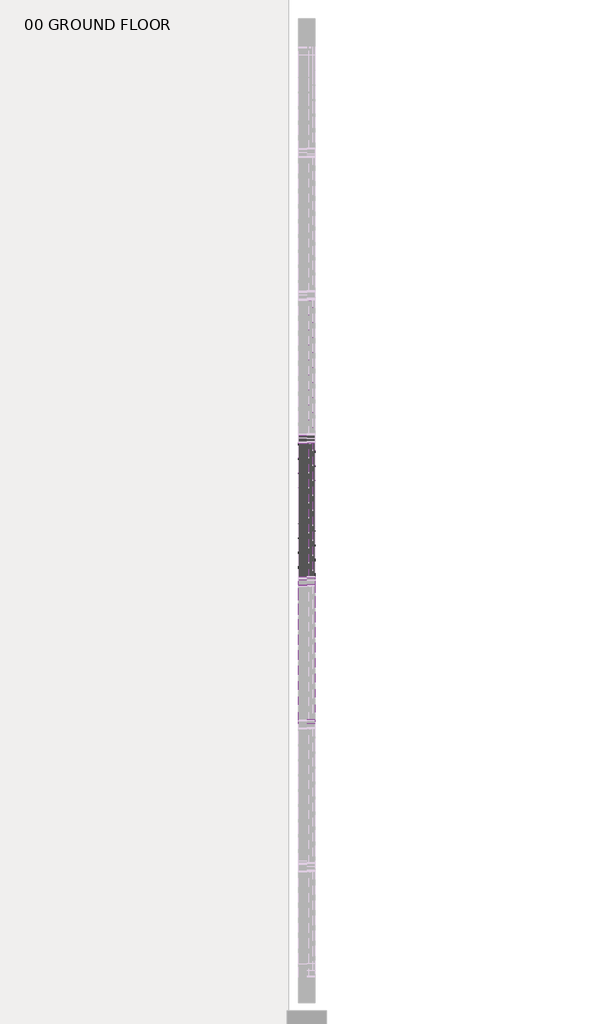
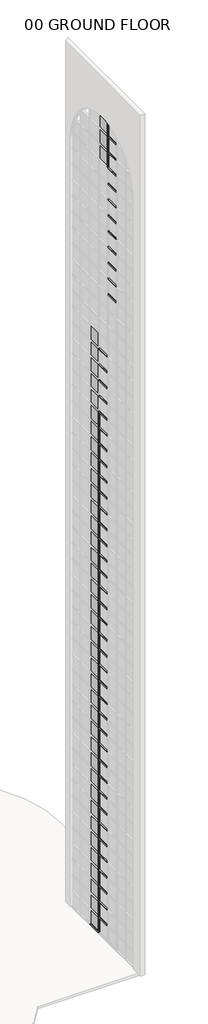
# One storey, part 19 of 33: 86 members, 41 plates.
"""IFC4 building model written with IfcOpenShell, lengths in millimetres."""

from ifc_helpers import new_model, si_unit, origin, place, context, project, spatial, transform, mapped, element, save
from components import member_14f97ceb, member_d1490fb0, member_2b49869a, member_3adf77c9, member_5ea67813, system_panel_glazed_f009bf0e, system_panel_glazed_0919b3b7, system_panel_glazed_d420fa7b

model = new_model("IFC4")

# Units and contexts
model_context = context("Model", 3, world=origin())
ifc_project = project(units=[si_unit("LENGTHUNIT", "METRE", prefix="MILLI")], contexts=[model_context])

# Site, building, storey
site = spatial("IfcSite", under=ifc_project)
building = spatial("IfcBuilding", under=site)
storey = spatial("IfcBuildingStorey", under=building, Name="00 GROUND FLOOR", Elevation=0.0)

# Members
placement = place(None, origin())
member_shape = member_14f97ceb(model_context)
element("IfcMember", 1, ObjectType="Rectangular Mullion : 2.5\" x 5\" rectangular", at=placement, inside=storey, context=model_context, shape_type="MappedRepresentation", body=[
    mapped(member_shape, transform((44184.4050515, 5325.3821428, 0.0), x_axis=(0.0, 0.0, -1.0), y_axis=(1.0, 0.0, 0.0), z_axis=(0.0, -1.0, 0.0))),
])
member_2_shape = member_d1490fb0(model_context)
element("IfcMember", 2, ObjectType="Rectangular Mullion : 2.5\" x 5\" rectangular", at=placement, inside=storey, context=model_context, shape_type="MappedRepresentation", body=[
    mapped(member_2_shape, transform((44184.4050515, 5261.8821428, 1219.2), x_axis=(0.0, 0.0, 1.0), y_axis=(1.0, 0.0, 0.0), z_axis=(0.0, 1.0, 0.0))),
])
element("IfcMember", 3, ObjectType="Rectangular Mullion : 2.5\" x 5\" rectangular", at=placement, inside=storey, context=model_context, shape_type="MappedRepresentation", body=[
    mapped(member_2_shape, transform((44184.4050515, 5261.8821428, 2438.4), x_axis=(0.0, 0.0, 1.0), y_axis=(1.0, 0.0, 0.0), z_axis=(0.0, 1.0, 0.0))),
])
element("IfcMember", 4, ObjectType="Rectangular Mullion : 2.5\" x 5\" rectangular", at=placement, inside=storey, context=model_context, shape_type="MappedRepresentation", body=[
    mapped(member_2_shape, transform((44184.4050515, 5261.8821428, 3657.6), x_axis=(0.0, 0.0, 1.0), y_axis=(1.0, 0.0, 0.0), z_axis=(0.0, 1.0, 0.0))),
])
element("IfcMember", 5, ObjectType="Rectangular Mullion : 2.5\" x 5\" rectangular", at=placement, inside=storey, context=model_context, shape_type="MappedRepresentation", body=[
    mapped(member_2_shape, transform((44184.4050515, 5261.8821428, 4876.8), x_axis=(0.0, 0.0, 1.0), y_axis=(1.0, 0.0, 0.0), z_axis=(0.0, 1.0, 0.0))),
])
element("IfcMember", 6, ObjectType="Rectangular Mullion : 2.5\" x 5\" rectangular", at=placement, inside=storey, context=model_context, shape_type="MappedRepresentation", body=[
    mapped(member_2_shape, transform((44184.4050515, 5261.8821428, 6096.0), x_axis=(0.0, 0.0, 1.0), y_axis=(1.0, 0.0, 0.0), z_axis=(0.0, 1.0, 0.0))),
])
element("IfcMember", 7, ObjectType="Rectangular Mullion : 2.5\" x 5\" rectangular", at=placement, inside=storey, context=model_context, shape_type="MappedRepresentation", body=[
    mapped(member_2_shape, transform((44184.4050515, 5261.8821428, 7315.2), x_axis=(0.0, 0.0, 1.0), y_axis=(1.0, 0.0, 0.0), z_axis=(0.0, 1.0, 0.0))),
])
element("IfcMember", 8, ObjectType="Rectangular Mullion : 2.5\" x 5\" rectangular", at=placement, inside=storey, context=model_context, shape_type="MappedRepresentation", body=[
    mapped(member_2_shape, transform((44184.4050515, 5261.8821428, 8534.4), x_axis=(0.0, 0.0, 1.0), y_axis=(1.0, 0.0, 0.0), z_axis=(0.0, 1.0, 0.0))),
])
element("IfcMember", 9, ObjectType="Rectangular Mullion : 2.5\" x 5\" rectangular", at=placement, inside=storey, context=model_context, shape_type="MappedRepresentation", body=[
    mapped(member_2_shape, transform((44184.4050515, 5261.8821428, 9753.6), x_axis=(0.0, 0.0, 1.0), y_axis=(1.0, 0.0, 0.0), z_axis=(0.0, 1.0, 0.0))),
])
element("IfcMember", 10, ObjectType="Rectangular Mullion : 2.5\" x 5\" rectangular", at=placement, inside=storey, context=model_context, shape_type="MappedRepresentation", body=[
    mapped(member_2_shape, transform((44184.4050515, 5261.8821428, 10972.8), x_axis=(0.0, 0.0, 1.0), y_axis=(1.0, 0.0, 0.0), z_axis=(0.0, 1.0, 0.0))),
])
element("IfcMember", 11, ObjectType="Rectangular Mullion : 2.5\" x 5\" rectangular", at=placement, inside=storey, context=model_context, shape_type="MappedRepresentation", body=[
    mapped(member_2_shape, transform((44184.4050515, 5261.8821428, 12192.0), x_axis=(0.0, 0.0, 1.0), y_axis=(1.0, 0.0, 0.0), z_axis=(0.0, 1.0, 0.0))),
])
element("IfcMember", 12, ObjectType="Rectangular Mullion : 2.5\" x 5\" rectangular", at=placement, inside=storey, context=model_context, shape_type="MappedRepresentation", body=[
    mapped(member_2_shape, transform((44184.4050515, 5261.8821428, 13411.2), x_axis=(0.0, 0.0, 1.0), y_axis=(1.0, 0.0, 0.0), z_axis=(0.0, 1.0, 0.0))),
])
element("IfcMember", 13, ObjectType="Rectangular Mullion : 2.5\" x 5\" rectangular", at=placement, inside=storey, context=model_context, shape_type="MappedRepresentation", body=[
    mapped(member_2_shape, transform((44184.4050515, 5261.8821428, 14630.4), x_axis=(0.0, 0.0, 1.0), y_axis=(1.0, 0.0, 0.0), z_axis=(0.0, 1.0, 0.0))),
])
element("IfcMember", 14, ObjectType="Rectangular Mullion : 2.5\" x 5\" rectangular", at=placement, inside=storey, context=model_context, shape_type="MappedRepresentation", body=[
    mapped(member_2_shape, transform((44184.4050515, 5261.8821428, 15849.6), x_axis=(0.0, 0.0, 1.0), y_axis=(1.0, 0.0, 0.0), z_axis=(0.0, 1.0, 0.0))),
])
element("IfcMember", 15, ObjectType="Rectangular Mullion : 2.5\" x 5\" rectangular", at=placement, inside=storey, context=model_context, shape_type="MappedRepresentation", body=[
    mapped(member_2_shape, transform((44184.4050515, 5261.8821428, 17068.8), x_axis=(0.0, 0.0, 1.0), y_axis=(1.0, 0.0, 0.0), z_axis=(0.0, 1.0, 0.0))),
])
element("IfcMember", 16, ObjectType="Rectangular Mullion : 2.5\" x 5\" rectangular", at=placement, inside=storey, context=model_context, shape_type="MappedRepresentation", body=[
    mapped(member_2_shape, transform((44184.4050515, 5261.8821428, 18288.0), x_axis=(0.0, 0.0, 1.0), y_axis=(1.0, 0.0, 0.0), z_axis=(0.0, 1.0, 0.0))),
])
element("IfcMember", 17, ObjectType="Rectangular Mullion : 2.5\" x 5\" rectangular", at=placement, inside=storey, context=model_context, shape_type="MappedRepresentation", body=[
    mapped(member_2_shape, transform((44184.4050515, 5261.8821428, 19507.2), x_axis=(0.0, 0.0, 1.0), y_axis=(1.0, 0.0, 0.0), z_axis=(0.0, 1.0, 0.0))),
])
element("IfcMember", 18, ObjectType="Rectangular Mullion : 2.5\" x 5\" rectangular", at=placement, inside=storey, context=model_context, shape_type="MappedRepresentation", body=[
    mapped(member_2_shape, transform((44184.4050515, 5261.8821428, 20726.4), x_axis=(0.0, 0.0, 1.0), y_axis=(1.0, 0.0, 0.0), z_axis=(0.0, 1.0, 0.0))),
])
element("IfcMember", 19, ObjectType="Rectangular Mullion : 2.5\" x 5\" rectangular", at=placement, inside=storey, context=model_context, shape_type="MappedRepresentation", body=[
    mapped(member_2_shape, transform((44184.4050515, 5261.8821428, 21945.6), x_axis=(0.0, 0.0, 1.0), y_axis=(1.0, 0.0, 0.0), z_axis=(0.0, 1.0, 0.0))),
])
element("IfcMember", 20, ObjectType="Rectangular Mullion : 2.5\" x 5\" rectangular", at=placement, inside=storey, context=model_context, shape_type="MappedRepresentation", body=[
    mapped(member_2_shape, transform((44184.4050515, 5261.8821428, 23164.8), x_axis=(0.0, 0.0, 1.0), y_axis=(1.0, 0.0, 0.0), z_axis=(0.0, 1.0, 0.0))),
])
element("IfcMember", 21, ObjectType="Rectangular Mullion : 2.5\" x 5\" rectangular", at=placement, inside=storey, context=model_context, shape_type="MappedRepresentation", body=[
    mapped(member_2_shape, transform((44184.4050515, 5261.8821428, 24384.0), x_axis=(0.0, 0.0, 1.0), y_axis=(1.0, 0.0, 0.0), z_axis=(0.0, 1.0, 0.0))),
])
element("IfcMember", 22, ObjectType="Rectangular Mullion : 2.5\" x 5\" rectangular", at=placement, inside=storey, context=model_context, shape_type="MappedRepresentation", body=[
    mapped(member_2_shape, transform((44184.4050515, 5261.8821428, 25603.2), x_axis=(0.0, 0.0, 1.0), y_axis=(1.0, 0.0, 0.0), z_axis=(0.0, 1.0, 0.0))),
])
element("IfcMember", 23, ObjectType="Rectangular Mullion : 2.5\" x 5\" rectangular", at=placement, inside=storey, context=model_context, shape_type="MappedRepresentation", body=[
    mapped(member_2_shape, transform((44184.4050515, 5261.8821428, 26822.4), x_axis=(0.0, 0.0, 1.0), y_axis=(1.0, 0.0, 0.0), z_axis=(0.0, 1.0, 0.0))),
])
element("IfcMember", 24, ObjectType="Rectangular Mullion : 2.5\" x 5\" rectangular", at=placement, inside=storey, context=model_context, shape_type="MappedRepresentation", body=[
    mapped(member_2_shape, transform((44184.4050515, 5261.8821428, 28041.6), x_axis=(0.0, 0.0, 1.0), y_axis=(1.0, 0.0, 0.0), z_axis=(0.0, 1.0, 0.0))),
])
element("IfcMember", 25, ObjectType="Rectangular Mullion : 2.5\" x 5\" rectangular", at=placement, inside=storey, context=model_context, shape_type="MappedRepresentation", body=[
    mapped(member_2_shape, transform((44184.4050515, 5261.8821428, 29260.8), x_axis=(0.0, 0.0, 1.0), y_axis=(1.0, 0.0, 0.0), z_axis=(0.0, 1.0, 0.0))),
])
element("IfcMember", 26, ObjectType="Rectangular Mullion : 2.5\" x 5\" rectangular", at=placement, inside=storey, context=model_context, shape_type="MappedRepresentation", body=[
    mapped(member_2_shape, transform((44184.4050515, 5261.8821428, 30480.0), x_axis=(0.0, 0.0, 1.0), y_axis=(1.0, 0.0, 0.0), z_axis=(0.0, 1.0, 0.0))),
])
element("IfcMember", 27, ObjectType="Rectangular Mullion : 2.5\" x 5\" rectangular", at=placement, inside=storey, context=model_context, shape_type="MappedRepresentation", body=[
    mapped(member_2_shape, transform((44184.4050515, 5261.8821428, 31699.2), x_axis=(0.0, 0.0, 1.0), y_axis=(1.0, 0.0, 0.0), z_axis=(0.0, 1.0, 0.0))),
])
element("IfcMember", 28, ObjectType="Rectangular Mullion : 2.5\" x 5\" rectangular", at=placement, inside=storey, context=model_context, shape_type="MappedRepresentation", body=[
    mapped(member_2_shape, transform((44184.4050515, 5261.8821428, 32918.4), x_axis=(0.0, 0.0, 1.0), y_axis=(1.0, 0.0, 0.0), z_axis=(0.0, 1.0, 0.0))),
])
element("IfcMember", 29, ObjectType="Rectangular Mullion : 2.5\" x 5\" rectangular", at=placement, inside=storey, context=model_context, shape_type="MappedRepresentation", body=[
    mapped(member_2_shape, transform((44184.4050515, 5261.8821428, 34137.6), x_axis=(0.0, 0.0, 1.0), y_axis=(1.0, 0.0, 0.0), z_axis=(0.0, 1.0, 0.0))),
])
element("IfcMember", 30, ObjectType="Rectangular Mullion : 2.5\" x 5\" rectangular", at=placement, inside=storey, context=model_context, shape_type="MappedRepresentation", body=[
    mapped(member_2_shape, transform((44184.4050515, 5261.8821428, 35356.8), x_axis=(0.0, 0.0, 1.0), y_axis=(1.0, 0.0, 0.0), z_axis=(0.0, 1.0, 0.0))),
])
element("IfcMember", 31, ObjectType="Rectangular Mullion : 2.5\" x 5\" rectangular", at=placement, inside=storey, context=model_context, shape_type="MappedRepresentation", body=[
    mapped(member_2_shape, transform((44184.4050515, 5261.8821428, 36576.0), x_axis=(0.0, 0.0, 1.0), y_axis=(1.0, 0.0, 0.0), z_axis=(0.0, 1.0, 0.0))),
])
element("IfcMember", 32, ObjectType="Rectangular Mullion : 2.5\" x 5\" rectangular", at=placement, inside=storey, context=model_context, shape_type="MappedRepresentation", body=[
    mapped(member_2_shape, transform((44184.4050515, 5261.8821428, 37795.2), x_axis=(0.0, 0.0, 1.0), y_axis=(1.0, 0.0, 0.0), z_axis=(0.0, 1.0, 0.0))),
])
element("IfcMember", 33, ObjectType="Rectangular Mullion : 2.5\" x 5\" rectangular", at=placement, inside=storey, context=model_context, shape_type="MappedRepresentation", body=[
    mapped(member_2_shape, transform((44184.4050515, 5261.8821428, 39014.4), x_axis=(0.0, 0.0, 1.0), y_axis=(1.0, 0.0, 0.0), z_axis=(0.0, 1.0, 0.0))),
])
element("IfcMember", 34, ObjectType="Rectangular Mullion : 2.5\" x 5\" rectangular", at=placement, inside=storey, context=model_context, shape_type="MappedRepresentation", body=[
    mapped(member_2_shape, transform((44184.4050515, 5261.8821428, 40233.6), x_axis=(0.0, 0.0, 1.0), y_axis=(1.0, 0.0, 0.0), z_axis=(0.0, 1.0, 0.0))),
])
element("IfcMember", 35, ObjectType="Rectangular Mullion : 2.5\" x 5\" rectangular", at=placement, inside=storey, context=model_context, shape_type="MappedRepresentation", body=[
    mapped(member_2_shape, transform((44184.4050515, 5261.8821428, 41452.8), x_axis=(0.0, 0.0, 1.0), y_axis=(1.0, 0.0, 0.0), z_axis=(0.0, 1.0, 0.0))),
])
element("IfcMember", 36, ObjectType="Rectangular Mullion : 2.5\" x 5\" rectangular", at=placement, inside=storey, context=model_context, shape_type="MappedRepresentation", body=[
    mapped(member_2_shape, transform((44184.4050515, 5261.8821428, 42672.0), x_axis=(0.0, 0.0, 1.0), y_axis=(1.0, 0.0, 0.0), z_axis=(0.0, 1.0, 0.0))),
])
element("IfcMember", 37, ObjectType="Rectangular Mullion : 2.5\" x 5\" rectangular", at=placement, inside=storey, context=model_context, shape_type="MappedRepresentation", body=[
    mapped(member_2_shape, transform((44184.4050515, 5261.8821428, 43891.2), x_axis=(0.0, 0.0, 1.0), y_axis=(1.0, 0.0, 0.0), z_axis=(0.0, 1.0, 0.0))),
])
element("IfcMember", 38, ObjectType="Rectangular Mullion : 2.5\" x 5\" rectangular", at=placement, inside=storey, context=model_context, shape_type="MappedRepresentation", body=[
    mapped(member_2_shape, transform((44184.4050515, 5261.8821428, 45110.4), x_axis=(0.0, 0.0, 1.0), y_axis=(1.0, 0.0, 0.0), z_axis=(0.0, 1.0, 0.0))),
])
element("IfcMember", 39, ObjectType="Rectangular Mullion : 2.5\" x 5\" rectangular", at=placement, inside=storey, context=model_context, shape_type="MappedRepresentation", body=[
    mapped(member_2_shape, transform((44184.4050515, 4129.7678572, 49987.2), x_axis=(0.0, 0.0, 1.0), y_axis=(1.0, 0.0, 0.0), z_axis=(0.0, 1.0, 0.0))),
])
element("IfcMember", 40, ObjectType="Rectangular Mullion : 2.5\" x 5\" rectangular", at=placement, inside=storey, context=model_context, shape_type="MappedRepresentation", body=[
    mapped(member_2_shape, transform((44184.4050515, 4129.7678572, 51206.4), x_axis=(0.0, 0.0, 1.0), y_axis=(1.0, 0.0, 0.0), z_axis=(0.0, 1.0, 0.0))),
])
element("IfcMember", 41, ObjectType="Rectangular Mullion : 2.5\" x 5\" rectangular", at=placement, inside=storey, context=model_context, shape_type="MappedRepresentation", body=[
    mapped(member_2_shape, transform((44184.4050515, 4129.7678572, 52425.6), x_axis=(0.0, 0.0, 1.0), y_axis=(1.0, 0.0, 0.0), z_axis=(0.0, 1.0, 0.0))),
])
element("IfcMember", 42, ObjectType="Rectangular Mullion : 2.5\" x 5\" rectangular", at=placement, inside=storey, context=model_context, shape_type="MappedRepresentation", body=[
    mapped(member_2_shape, transform((44184.4050515, 4129.7678572, 53644.8), x_axis=(0.0, 0.0, 1.0), y_axis=(1.0, 0.0, 0.0), z_axis=(0.0, 1.0, 0.0))),
])
element("IfcMember", 43, ObjectType="Rectangular Mullion : 2.5\" x 5\" rectangular", at=placement, inside=storey, context=model_context, shape_type="MappedRepresentation", body=[
    mapped(member_2_shape, transform((44184.4050515, 4129.7678572, 54864.0), x_axis=(0.0, 0.0, 1.0), y_axis=(1.0, 0.0, 0.0), z_axis=(0.0, 1.0, 0.0))),
])
element("IfcMember", 44, ObjectType="Rectangular Mullion : 2.5\" x 5\" rectangular", at=placement, inside=storey, context=model_context, shape_type="MappedRepresentation", body=[
    mapped(member_2_shape, transform((44184.4050515, 4129.7678572, 56083.2), x_axis=(0.0, 0.0, 1.0), y_axis=(1.0, 0.0, 0.0), z_axis=(0.0, 1.0, 0.0))),
])
element("IfcMember", 45, ObjectType="Rectangular Mullion : 2.5\" x 5\" rectangular", at=placement, inside=storey, context=model_context, shape_type="MappedRepresentation", body=[
    mapped(member_2_shape, transform((44184.4050515, 4129.7678572, 57302.4), x_axis=(0.0, 0.0, 1.0), y_axis=(1.0, 0.0, 0.0), z_axis=(0.0, 1.0, 0.0))),
])
element("IfcMember", 46, ObjectType="Rectangular Mullion : 2.5\" x 5\" rectangular", at=placement, inside=storey, context=model_context, shape_type="MappedRepresentation", body=[
    mapped(member_2_shape, transform((44184.4050515, 4129.7678572, 58521.6), x_axis=(0.0, 0.0, 1.0), y_axis=(1.0, 0.0, 0.0), z_axis=(0.0, 1.0, 0.0))),
])
element("IfcMember", 47, ObjectType="Rectangular Mullion : 2.5\" x 5\" rectangular", at=placement, inside=storey, context=model_context, shape_type="MappedRepresentation", body=[
    mapped(member_2_shape, transform((44184.4050515, 4129.7678572, 59740.8), x_axis=(0.0, 0.0, 1.0), y_axis=(1.0, 0.0, 0.0), z_axis=(0.0, 1.0, 0.0))),
])
element("IfcMember", 48, ObjectType="Rectangular Mullion : 2.5\" x 5\" rectangular", at=placement, inside=storey, context=model_context, shape_type="MappedRepresentation", body=[
    mapped(member_2_shape, transform((44184.4050515, 4129.7678572, 60960.0), x_axis=(0.0, 0.0, 1.0), y_axis=(1.0, 0.0, 0.0), z_axis=(0.0, 1.0, 0.0))),
])
element("IfcMember", 49, ObjectType="Rectangular Mullion : 2.5\" x 5\" rectangular", at=placement, inside=storey, context=model_context, shape_type="MappedRepresentation", body=[
    mapped(member_2_shape, transform((44184.4050515, 4129.7678572, 62179.2), x_axis=(0.0, 0.0, 1.0), y_axis=(1.0, 0.0, 0.0), z_axis=(0.0, 1.0, 0.0))),
])
member_3_shape = member_2b49869a(model_context)
element("IfcMember", 50, ObjectType="Rectangular Mullion : 2.5\" x 5\" rectangular", at=placement, inside=storey, context=model_context, shape_type="MappedRepresentation", body=[
    mapped(member_3_shape, transform((44184.4050515, 5293.6321428, 0.0), x_axis=(0.0, 1.0, 0.0), y_axis=(1.0, 0.0, 0.0), z_axis=(0.0, 0.0, -1.0))),
])
element("IfcMember", 51, ObjectType="Rectangular Mullion : 2.5\" x 5\" rectangular", at=placement, inside=storey, context=model_context, shape_type="MappedRepresentation", body=[
    mapped(member_3_shape, transform((44184.4050515, 5293.6321428, 1219.2), x_axis=(0.0, 1.0, 0.0), y_axis=(1.0, 0.0, 0.0), z_axis=(0.0, 0.0, -1.0))),
])
element("IfcMember", 52, ObjectType="Rectangular Mullion : 2.5\" x 5\" rectangular", at=placement, inside=storey, context=model_context, shape_type="MappedRepresentation", body=[
    mapped(member_3_shape, transform((44184.4050515, 5293.6321428, 2438.4), x_axis=(0.0, 1.0, 0.0), y_axis=(1.0, 0.0, 0.0), z_axis=(0.0, 0.0, -1.0))),
])
element("IfcMember", 53, ObjectType="Rectangular Mullion : 2.5\" x 5\" rectangular", at=placement, inside=storey, context=model_context, shape_type="MappedRepresentation", body=[
    mapped(member_3_shape, transform((44184.4050515, 5293.6321428, 3657.6), x_axis=(0.0, 1.0, 0.0), y_axis=(1.0, 0.0, 0.0), z_axis=(0.0, 0.0, -1.0))),
])
element("IfcMember", 54, ObjectType="Rectangular Mullion : 2.5\" x 5\" rectangular", at=placement, inside=storey, context=model_context, shape_type="MappedRepresentation", body=[
    mapped(member_3_shape, transform((44184.4050515, 5293.6321428, 4876.8), x_axis=(0.0, 1.0, 0.0), y_axis=(1.0, 0.0, 0.0), z_axis=(0.0, 0.0, -1.0))),
])
element("IfcMember", 55, ObjectType="Rectangular Mullion : 2.5\" x 5\" rectangular", at=placement, inside=storey, context=model_context, shape_type="MappedRepresentation", body=[
    mapped(member_3_shape, transform((44184.4050515, 5293.6321428, 6096.0), x_axis=(0.0, 1.0, 0.0), y_axis=(1.0, 0.0, 0.0), z_axis=(0.0, 0.0, -1.0))),
])
element("IfcMember", 56, ObjectType="Rectangular Mullion : 2.5\" x 5\" rectangular", at=placement, inside=storey, context=model_context, shape_type="MappedRepresentation", body=[
    mapped(member_3_shape, transform((44184.4050515, 5293.6321428, 7315.2), x_axis=(0.0, 1.0, 0.0), y_axis=(1.0, 0.0, 0.0), z_axis=(0.0, 0.0, -1.0))),
])
element("IfcMember", 57, ObjectType="Rectangular Mullion : 2.5\" x 5\" rectangular", at=placement, inside=storey, context=model_context, shape_type="MappedRepresentation", body=[
    mapped(member_3_shape, transform((44184.4050515, 5293.6321428, 8534.4), x_axis=(0.0, 1.0, 0.0), y_axis=(1.0, 0.0, 0.0), z_axis=(0.0, 0.0, -1.0))),
])
element("IfcMember", 58, ObjectType="Rectangular Mullion : 2.5\" x 5\" rectangular", at=placement, inside=storey, context=model_context, shape_type="MappedRepresentation", body=[
    mapped(member_3_shape, transform((44184.4050515, 5293.6321428, 9753.6), x_axis=(0.0, 1.0, 0.0), y_axis=(1.0, 0.0, 0.0), z_axis=(0.0, 0.0, -1.0))),
])
element("IfcMember", 59, ObjectType="Rectangular Mullion : 2.5\" x 5\" rectangular", at=placement, inside=storey, context=model_context, shape_type="MappedRepresentation", body=[
    mapped(member_3_shape, transform((44184.4050515, 5293.6321428, 10972.8), x_axis=(0.0, 1.0, 0.0), y_axis=(1.0, 0.0, 0.0), z_axis=(0.0, 0.0, -1.0))),
])
element("IfcMember", 60, ObjectType="Rectangular Mullion : 2.5\" x 5\" rectangular", at=placement, inside=storey, context=model_context, shape_type="MappedRepresentation", body=[
    mapped(member_3_shape, transform((44184.4050515, 5293.6321428, 12192.0), x_axis=(0.0, 1.0, 0.0), y_axis=(1.0, 0.0, 0.0), z_axis=(0.0, 0.0, -1.0))),
])
element("IfcMember", 61, ObjectType="Rectangular Mullion : 2.5\" x 5\" rectangular", at=placement, inside=storey, context=model_context, shape_type="MappedRepresentation", body=[
    mapped(member_3_shape, transform((44184.4050515, 5293.6321428, 13411.2), x_axis=(0.0, 1.0, 0.0), y_axis=(1.0, 0.0, 0.0), z_axis=(0.0, 0.0, -1.0))),
])
element("IfcMember", 62, ObjectType="Rectangular Mullion : 2.5\" x 5\" rectangular", at=placement, inside=storey, context=model_context, shape_type="MappedRepresentation", body=[
    mapped(member_3_shape, transform((44184.4050515, 5293.6321428, 14630.4), x_axis=(0.0, 1.0, 0.0), y_axis=(1.0, 0.0, 0.0), z_axis=(0.0, 0.0, -1.0))),
])
element("IfcMember", 63, ObjectType="Rectangular Mullion : 2.5\" x 5\" rectangular", at=placement, inside=storey, context=model_context, shape_type="MappedRepresentation", body=[
    mapped(member_3_shape, transform((44184.4050515, 5293.6321428, 15849.6), x_axis=(0.0, 1.0, 0.0), y_axis=(1.0, 0.0, 0.0), z_axis=(0.0, 0.0, -1.0))),
])
element("IfcMember", 64, ObjectType="Rectangular Mullion : 2.5\" x 5\" rectangular", at=placement, inside=storey, context=model_context, shape_type="MappedRepresentation", body=[
    mapped(member_3_shape, transform((44184.4050515, 5293.6321428, 17068.8), x_axis=(0.0, 1.0, 0.0), y_axis=(1.0, 0.0, 0.0), z_axis=(0.0, 0.0, -1.0))),
])
element("IfcMember", 65, ObjectType="Rectangular Mullion : 2.5\" x 5\" rectangular", at=placement, inside=storey, context=model_context, shape_type="MappedRepresentation", body=[
    mapped(member_3_shape, transform((44184.4050515, 5293.6321428, 18288.0), x_axis=(0.0, 1.0, 0.0), y_axis=(1.0, 0.0, 0.0), z_axis=(0.0, 0.0, -1.0))),
])
element("IfcMember", 66, ObjectType="Rectangular Mullion : 2.5\" x 5\" rectangular", at=placement, inside=storey, context=model_context, shape_type="MappedRepresentation", body=[
    mapped(member_3_shape, transform((44184.4050515, 5293.6321428, 19507.2), x_axis=(0.0, 1.0, 0.0), y_axis=(1.0, 0.0, 0.0), z_axis=(0.0, 0.0, -1.0))),
])
element("IfcMember", 67, ObjectType="Rectangular Mullion : 2.5\" x 5\" rectangular", at=placement, inside=storey, context=model_context, shape_type="MappedRepresentation", body=[
    mapped(member_3_shape, transform((44184.4050515, 5293.6321428, 20726.4), x_axis=(0.0, 1.0, 0.0), y_axis=(1.0, 0.0, 0.0), z_axis=(0.0, 0.0, -1.0))),
])
element("IfcMember", 68, ObjectType="Rectangular Mullion : 2.5\" x 5\" rectangular", at=placement, inside=storey, context=model_context, shape_type="MappedRepresentation", body=[
    mapped(member_3_shape, transform((44184.4050515, 5293.6321428, 21945.6), x_axis=(0.0, 1.0, 0.0), y_axis=(1.0, 0.0, 0.0), z_axis=(0.0, 0.0, -1.0))),
])
element("IfcMember", 69, ObjectType="Rectangular Mullion : 2.5\" x 5\" rectangular", at=placement, inside=storey, context=model_context, shape_type="MappedRepresentation", body=[
    mapped(member_3_shape, transform((44184.4050515, 5293.6321428, 23164.8), x_axis=(0.0, 1.0, 0.0), y_axis=(1.0, 0.0, 0.0), z_axis=(0.0, 0.0, -1.0))),
])
element("IfcMember", 70, ObjectType="Rectangular Mullion : 2.5\" x 5\" rectangular", at=placement, inside=storey, context=model_context, shape_type="MappedRepresentation", body=[
    mapped(member_3_shape, transform((44184.4050515, 5293.6321428, 24384.0), x_axis=(0.0, 1.0, 0.0), y_axis=(1.0, 0.0, 0.0), z_axis=(0.0, 0.0, -1.0))),
])
element("IfcMember", 71, ObjectType="Rectangular Mullion : 2.5\" x 5\" rectangular", at=placement, inside=storey, context=model_context, shape_type="MappedRepresentation", body=[
    mapped(member_3_shape, transform((44184.4050515, 5293.6321428, 25603.2), x_axis=(0.0, 1.0, 0.0), y_axis=(1.0, 0.0, 0.0), z_axis=(0.0, 0.0, -1.0))),
])
element("IfcMember", 72, ObjectType="Rectangular Mullion : 2.5\" x 5\" rectangular", at=placement, inside=storey, context=model_context, shape_type="MappedRepresentation", body=[
    mapped(member_3_shape, transform((44184.4050515, 5293.6321428, 26822.4), x_axis=(0.0, 1.0, 0.0), y_axis=(1.0, 0.0, 0.0), z_axis=(0.0, 0.0, -1.0))),
])
element("IfcMember", 73, ObjectType="Rectangular Mullion : 2.5\" x 5\" rectangular", at=placement, inside=storey, context=model_context, shape_type="MappedRepresentation", body=[
    mapped(member_3_shape, transform((44184.4050515, 5293.6321428, 28041.6), x_axis=(0.0, 1.0, 0.0), y_axis=(1.0, 0.0, 0.0), z_axis=(0.0, 0.0, -1.0))),
])
element("IfcMember", 74, ObjectType="Rectangular Mullion : 2.5\" x 5\" rectangular", at=placement, inside=storey, context=model_context, shape_type="MappedRepresentation", body=[
    mapped(member_3_shape, transform((44184.4050515, 5293.6321428, 29260.8), x_axis=(0.0, 1.0, 0.0), y_axis=(1.0, 0.0, 0.0), z_axis=(0.0, 0.0, -1.0))),
])
element("IfcMember", 75, ObjectType="Rectangular Mullion : 2.5\" x 5\" rectangular", at=placement, inside=storey, context=model_context, shape_type="MappedRepresentation", body=[
    mapped(member_3_shape, transform((44184.4050515, 5293.6321428, 30480.0), x_axis=(0.0, 1.0, 0.0), y_axis=(1.0, 0.0, 0.0), z_axis=(0.0, 0.0, -1.0))),
])
element("IfcMember", 76, ObjectType="Rectangular Mullion : 2.5\" x 5\" rectangular", at=placement, inside=storey, context=model_context, shape_type="MappedRepresentation", body=[
    mapped(member_3_shape, transform((44184.4050515, 5293.6321428, 31699.2), x_axis=(0.0, 1.0, 0.0), y_axis=(1.0, 0.0, 0.0), z_axis=(0.0, 0.0, -1.0))),
])
element("IfcMember", 77, ObjectType="Rectangular Mullion : 2.5\" x 5\" rectangular", at=placement, inside=storey, context=model_context, shape_type="MappedRepresentation", body=[
    mapped(member_3_shape, transform((44184.4050515, 5293.6321428, 32918.4), x_axis=(0.0, 1.0, 0.0), y_axis=(1.0, 0.0, 0.0), z_axis=(0.0, 0.0, -1.0))),
])
element("IfcMember", 78, ObjectType="Rectangular Mullion : 2.5\" x 5\" rectangular", at=placement, inside=storey, context=model_context, shape_type="MappedRepresentation", body=[
    mapped(member_3_shape, transform((44184.4050515, 5293.6321428, 34137.6), x_axis=(0.0, 1.0, 0.0), y_axis=(1.0, 0.0, 0.0), z_axis=(0.0, 0.0, -1.0))),
])
element("IfcMember", 79, ObjectType="Rectangular Mullion : 2.5\" x 5\" rectangular", at=placement, inside=storey, context=model_context, shape_type="MappedRepresentation", body=[
    mapped(member_3_shape, transform((44184.4050515, 5293.6321428, 35356.8), x_axis=(0.0, 1.0, 0.0), y_axis=(1.0, 0.0, 0.0), z_axis=(0.0, 0.0, -1.0))),
])
element("IfcMember", 80, ObjectType="Rectangular Mullion : 2.5\" x 5\" rectangular", at=placement, inside=storey, context=model_context, shape_type="MappedRepresentation", body=[
    mapped(member_3_shape, transform((44184.4050515, 5293.6321428, 36576.0), x_axis=(0.0, 1.0, 0.0), y_axis=(1.0, 0.0, 0.0), z_axis=(0.0, 0.0, -1.0))),
])
element("IfcMember", 81, ObjectType="Rectangular Mullion : 2.5\" x 5\" rectangular", at=placement, inside=storey, context=model_context, shape_type="MappedRepresentation", body=[
    mapped(member_3_shape, transform((44184.4050515, 5293.6321428, 37795.2), x_axis=(0.0, 1.0, 0.0), y_axis=(1.0, 0.0, 0.0), z_axis=(0.0, 0.0, -1.0))),
])
element("IfcMember", 82, ObjectType="Rectangular Mullion : 2.5\" x 5\" rectangular", at=placement, inside=storey, context=model_context, shape_type="MappedRepresentation", body=[
    mapped(member_3_shape, transform((44184.4050515, 5293.6321428, 39014.4), x_axis=(0.0, 1.0, 0.0), y_axis=(1.0, 0.0, 0.0), z_axis=(0.0, 0.0, -1.0))),
])
element("IfcMember", 83, ObjectType="Rectangular Mullion : 2.5\" x 5\" rectangular", at=placement, inside=storey, context=model_context, shape_type="MappedRepresentation", body=[
    mapped(member_3_shape, transform((44184.4050515, 4161.5178572, 59740.8), x_axis=(0.0, 1.0, 0.0), y_axis=(1.0, 0.0, 0.0), z_axis=(0.0, 0.0, -1.0))),
])
element("IfcMember", 84, ObjectType="Rectangular Mullion : 2.5\" x 5\" rectangular", at=placement, inside=storey, context=model_context, shape_type="MappedRepresentation", body=[
    mapped(member_3_shape, transform((44184.4050515, 4161.5178572, 60960.0), x_axis=(0.0, 1.0, 0.0), y_axis=(1.0, 0.0, 0.0), z_axis=(0.0, 0.0, -1.0))),
])
member_4_shape = member_3adf77c9(model_context)
element("IfcMember", 85, ObjectType="Rectangular Mullion : 2.5\" x 5\" rectangular", at=placement, inside=storey, context=model_context, shape_type="MappedRepresentation", body=[
    mapped(member_4_shape, transform((44184.4050515, 4161.5178572, 63357.7589257), x_axis=(0.0, -0.1428571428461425, 0.9897433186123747), y_axis=(1.0, 0.0, 0.0), z_axis=(0.0, 0.9897433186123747, 0.1428571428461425))),
])
member_5_shape = member_5ea67813(model_context)
element("IfcMember", 86, ObjectType="Rectangular Mullion : 2.5\" x 5\" rectangular", at=placement, inside=storey, context=model_context, shape_type="MappedRepresentation", body=[
    mapped(member_5_shape, transform((44184.4050515, 4161.5178572, 62179.2), x_axis=(0.0, 1.0, 0.0), y_axis=(1.0, 0.0, 0.0), z_axis=(0.0, 0.0, -1.0))),
])

# Plates
system_panel_glazed_shape = system_panel_glazed_f009bf0e(model_context)
element("IfcPlate", 87, ObjectType="System Panel : Glazed", at=placement, inside=storey, context=model_context, shape_type="MappedRepresentation", body=[
    mapped(system_panel_glazed_shape, transform((44184.4050515, 5859.6892856, 63.5), x_axis=(0.0, 1.0, 0.0), y_axis=(-1.0, 0.0, 0.0), z_axis=(0.0, 0.0, 1.0))),
])
system_panel_glazed_2_shape = system_panel_glazed_0919b3b7(model_context)
element("IfcPlate", 88, ObjectType="System Panel : Glazed", at=placement, inside=storey, context=model_context, shape_type="MappedRepresentation", body=[
    mapped(system_panel_glazed_2_shape, transform((44184.4050515, 5859.6892856, 1250.95), x_axis=(0.0, 1.0, 0.0), y_axis=(-1.0, 0.0, 0.0), z_axis=(0.0, 0.0, 1.0))),
])
element("IfcPlate", 89, ObjectType="System Panel : Glazed", at=placement, inside=storey, context=model_context, shape_type="MappedRepresentation", body=[
    mapped(system_panel_glazed_2_shape, transform((44184.4050515, 5859.6892856, 2470.15), x_axis=(0.0, 1.0, 0.0), y_axis=(-1.0, 0.0, 0.0), z_axis=(0.0, 0.0, 1.0))),
])
element("IfcPlate", 90, ObjectType="System Panel : Glazed", at=placement, inside=storey, context=model_context, shape_type="MappedRepresentation", body=[
    mapped(system_panel_glazed_2_shape, transform((44184.4050515, 5859.6892856, 3689.35), x_axis=(0.0, 1.0, 0.0), y_axis=(-1.0, 0.0, 0.0), z_axis=(0.0, 0.0, 1.0))),
])
element("IfcPlate", 91, ObjectType="System Panel : Glazed", at=placement, inside=storey, context=model_context, shape_type="MappedRepresentation", body=[
    mapped(system_panel_glazed_2_shape, transform((44184.4050515, 5859.6892856, 4908.55), x_axis=(0.0, 1.0, 0.0), y_axis=(-1.0, 0.0, 0.0), z_axis=(0.0, 0.0, 1.0))),
])
element("IfcPlate", 92, ObjectType="System Panel : Glazed", at=placement, inside=storey, context=model_context, shape_type="MappedRepresentation", body=[
    mapped(system_panel_glazed_2_shape, transform((44184.4050515, 5859.6892856, 6127.75), x_axis=(0.0, 1.0, 0.0), y_axis=(-1.0, 0.0, 0.0), z_axis=(0.0, 0.0, 1.0))),
])
element("IfcPlate", 93, ObjectType="System Panel : Glazed", at=placement, inside=storey, context=model_context, shape_type="MappedRepresentation", body=[
    mapped(system_panel_glazed_2_shape, transform((44184.4050515, 5859.6892856, 7346.95), x_axis=(0.0, 1.0, 0.0), y_axis=(-1.0, 0.0, 0.0), z_axis=(0.0, 0.0, 1.0))),
])
element("IfcPlate", 94, ObjectType="System Panel : Glazed", at=placement, inside=storey, context=model_context, shape_type="MappedRepresentation", body=[
    mapped(system_panel_glazed_2_shape, transform((44184.4050515, 5859.6892856, 8566.15), x_axis=(0.0, 1.0, 0.0), y_axis=(-1.0, 0.0, 0.0), z_axis=(0.0, 0.0, 1.0))),
])
element("IfcPlate", 95, ObjectType="System Panel : Glazed", at=placement, inside=storey, context=model_context, shape_type="MappedRepresentation", body=[
    mapped(system_panel_glazed_2_shape, transform((44184.4050515, 5859.6892856, 9785.35), x_axis=(0.0, 1.0, 0.0), y_axis=(-1.0, 0.0, 0.0), z_axis=(0.0, 0.0, 1.0))),
])
element("IfcPlate", 96, ObjectType="System Panel : Glazed", at=placement, inside=storey, context=model_context, shape_type="MappedRepresentation", body=[
    mapped(system_panel_glazed_2_shape, transform((44184.4050515, 5859.6892856, 11004.55), x_axis=(0.0, 1.0, 0.0), y_axis=(-1.0, 0.0, 0.0), z_axis=(0.0, 0.0, 1.0))),
])
element("IfcPlate", 97, ObjectType="System Panel : Glazed", at=placement, inside=storey, context=model_context, shape_type="MappedRepresentation", body=[
    mapped(system_panel_glazed_2_shape, transform((44184.4050515, 5859.6892856, 12223.75), x_axis=(0.0, 1.0, 0.0), y_axis=(-1.0, 0.0, 0.0), z_axis=(0.0, 0.0, 1.0))),
])
element("IfcPlate", 98, ObjectType="System Panel : Glazed", at=placement, inside=storey, context=model_context, shape_type="MappedRepresentation", body=[
    mapped(system_panel_glazed_2_shape, transform((44184.4050515, 5859.6892856, 13442.95), x_axis=(0.0, 1.0, 0.0), y_axis=(-1.0, 0.0, 0.0), z_axis=(0.0, 0.0, 1.0))),
])
element("IfcPlate", 99, ObjectType="System Panel : Glazed", at=placement, inside=storey, context=model_context, shape_type="MappedRepresentation", body=[
    mapped(system_panel_glazed_2_shape, transform((44184.4050515, 5859.6892856, 14662.15), x_axis=(0.0, 1.0, 0.0), y_axis=(-1.0, 0.0, 0.0), z_axis=(0.0, 0.0, 1.0))),
])
element("IfcPlate", 100, ObjectType="System Panel : Glazed", at=placement, inside=storey, context=model_context, shape_type="MappedRepresentation", body=[
    mapped(system_panel_glazed_2_shape, transform((44184.4050515, 5859.6892856, 15881.35), x_axis=(0.0, 1.0, 0.0), y_axis=(-1.0, 0.0, 0.0), z_axis=(0.0, 0.0, 1.0))),
])
element("IfcPlate", 101, ObjectType="System Panel : Glazed", at=placement, inside=storey, context=model_context, shape_type="MappedRepresentation", body=[
    mapped(system_panel_glazed_2_shape, transform((44184.4050515, 5859.6892856, 17100.55), x_axis=(0.0, 1.0, 0.0), y_axis=(-1.0, 0.0, 0.0), z_axis=(0.0, 0.0, 1.0))),
])
element("IfcPlate", 102, ObjectType="System Panel : Glazed", at=placement, inside=storey, context=model_context, shape_type="MappedRepresentation", body=[
    mapped(system_panel_glazed_2_shape, transform((44184.4050515, 5859.6892856, 18319.75), x_axis=(0.0, 1.0, 0.0), y_axis=(-1.0, 0.0, 0.0), z_axis=(0.0, 0.0, 1.0))),
])
element("IfcPlate", 103, ObjectType="System Panel : Glazed", at=placement, inside=storey, context=model_context, shape_type="MappedRepresentation", body=[
    mapped(system_panel_glazed_2_shape, transform((44184.4050515, 5859.6892856, 19538.95), x_axis=(0.0, 1.0, 0.0), y_axis=(-1.0, 0.0, 0.0), z_axis=(0.0, 0.0, 1.0))),
])
element("IfcPlate", 104, ObjectType="System Panel : Glazed", at=placement, inside=storey, context=model_context, shape_type="MappedRepresentation", body=[
    mapped(system_panel_glazed_2_shape, transform((44184.4050515, 5859.6892856, 20758.15), x_axis=(0.0, 1.0, 0.0), y_axis=(-1.0, 0.0, 0.0), z_axis=(0.0, 0.0, 1.0))),
])
element("IfcPlate", 105, ObjectType="System Panel : Glazed", at=placement, inside=storey, context=model_context, shape_type="MappedRepresentation", body=[
    mapped(system_panel_glazed_2_shape, transform((44184.4050515, 5859.6892856, 21977.35), x_axis=(0.0, 1.0, 0.0), y_axis=(-1.0, 0.0, 0.0), z_axis=(0.0, 0.0, 1.0))),
])
element("IfcPlate", 106, ObjectType="System Panel : Glazed", at=placement, inside=storey, context=model_context, shape_type="MappedRepresentation", body=[
    mapped(system_panel_glazed_2_shape, transform((44184.4050515, 5859.6892856, 23196.55), x_axis=(0.0, 1.0, 0.0), y_axis=(-1.0, 0.0, 0.0), z_axis=(0.0, 0.0, 1.0))),
])
element("IfcPlate", 107, ObjectType="System Panel : Glazed", at=placement, inside=storey, context=model_context, shape_type="MappedRepresentation", body=[
    mapped(system_panel_glazed_2_shape, transform((44184.4050515, 5859.6892856, 24415.75), x_axis=(0.0, 1.0, 0.0), y_axis=(-1.0, 0.0, 0.0), z_axis=(0.0, 0.0, 1.0))),
])
element("IfcPlate", 108, ObjectType="System Panel : Glazed", at=placement, inside=storey, context=model_context, shape_type="MappedRepresentation", body=[
    mapped(system_panel_glazed_2_shape, transform((44184.4050515, 5859.6892856, 25634.95), x_axis=(0.0, 1.0, 0.0), y_axis=(-1.0, 0.0, 0.0), z_axis=(0.0, 0.0, 1.0))),
])
element("IfcPlate", 109, ObjectType="System Panel : Glazed", at=placement, inside=storey, context=model_context, shape_type="MappedRepresentation", body=[
    mapped(system_panel_glazed_2_shape, transform((44184.4050515, 5859.6892856, 26854.15), x_axis=(0.0, 1.0, 0.0), y_axis=(-1.0, 0.0, 0.0), z_axis=(0.0, 0.0, 1.0))),
])
element("IfcPlate", 110, ObjectType="System Panel : Glazed", at=placement, inside=storey, context=model_context, shape_type="MappedRepresentation", body=[
    mapped(system_panel_glazed_2_shape, transform((44184.4050515, 5859.6892856, 28073.35), x_axis=(0.0, 1.0, 0.0), y_axis=(-1.0, 0.0, 0.0), z_axis=(0.0, 0.0, 1.0))),
])
element("IfcPlate", 111, ObjectType="System Panel : Glazed", at=placement, inside=storey, context=model_context, shape_type="MappedRepresentation", body=[
    mapped(system_panel_glazed_2_shape, transform((44184.4050515, 5859.6892856, 29292.55), x_axis=(0.0, 1.0, 0.0), y_axis=(-1.0, 0.0, 0.0), z_axis=(0.0, 0.0, 1.0))),
])
element("IfcPlate", 112, ObjectType="System Panel : Glazed", at=placement, inside=storey, context=model_context, shape_type="MappedRepresentation", body=[
    mapped(system_panel_glazed_2_shape, transform((44184.4050515, 5859.6892856, 30511.75), x_axis=(0.0, 1.0, 0.0), y_axis=(-1.0, 0.0, 0.0), z_axis=(0.0, 0.0, 1.0))),
])
element("IfcPlate", 113, ObjectType="System Panel : Glazed", at=placement, inside=storey, context=model_context, shape_type="MappedRepresentation", body=[
    mapped(system_panel_glazed_2_shape, transform((44184.4050515, 5859.6892856, 31730.95), x_axis=(0.0, 1.0, 0.0), y_axis=(-1.0, 0.0, 0.0), z_axis=(0.0, 0.0, 1.0))),
])
element("IfcPlate", 114, ObjectType="System Panel : Glazed", at=placement, inside=storey, context=model_context, shape_type="MappedRepresentation", body=[
    mapped(system_panel_glazed_2_shape, transform((44184.4050515, 5859.6892856, 32950.15), x_axis=(0.0, 1.0, 0.0), y_axis=(-1.0, 0.0, 0.0), z_axis=(0.0, 0.0, 1.0))),
])
element("IfcPlate", 115, ObjectType="System Panel : Glazed", at=placement, inside=storey, context=model_context, shape_type="MappedRepresentation", body=[
    mapped(system_panel_glazed_2_shape, transform((44184.4050515, 5859.6892856, 34169.35), x_axis=(0.0, 1.0, 0.0), y_axis=(-1.0, 0.0, 0.0), z_axis=(0.0, 0.0, 1.0))),
])
element("IfcPlate", 116, ObjectType="System Panel : Glazed", at=placement, inside=storey, context=model_context, shape_type="MappedRepresentation", body=[
    mapped(system_panel_glazed_2_shape, transform((44184.4050515, 5859.6892856, 35388.55), x_axis=(0.0, 1.0, 0.0), y_axis=(-1.0, 0.0, 0.0), z_axis=(0.0, 0.0, 1.0))),
])
element("IfcPlate", 117, ObjectType="System Panel : Glazed", at=placement, inside=storey, context=model_context, shape_type="MappedRepresentation", body=[
    mapped(system_panel_glazed_2_shape, transform((44184.4050515, 5859.6892856, 36607.75), x_axis=(0.0, 1.0, 0.0), y_axis=(-1.0, 0.0, 0.0), z_axis=(0.0, 0.0, 1.0))),
])
element("IfcPlate", 118, ObjectType="System Panel : Glazed", at=placement, inside=storey, context=model_context, shape_type="MappedRepresentation", body=[
    mapped(system_panel_glazed_2_shape, transform((44184.4050515, 5859.6892856, 37826.95), x_axis=(0.0, 1.0, 0.0), y_axis=(-1.0, 0.0, 0.0), z_axis=(0.0, 0.0, 1.0))),
])
element("IfcPlate", 119, ObjectType="System Panel : Glazed", at=placement, inside=storey, context=model_context, shape_type="MappedRepresentation", body=[
    mapped(system_panel_glazed_2_shape, transform((44184.4050515, 5859.6892856, 39046.15), x_axis=(0.0, 1.0, 0.0), y_axis=(-1.0, 0.0, 0.0), z_axis=(0.0, 0.0, 1.0))),
])
element("IfcPlate", 120, ObjectType="System Panel : Glazed", at=placement, inside=storey, context=model_context, shape_type="MappedRepresentation", body=[
    mapped(system_panel_glazed_2_shape, transform((44184.4050515, 5859.6892856, 40265.35), x_axis=(0.0, 1.0, 0.0), y_axis=(-1.0, 0.0, 0.0), z_axis=(0.0, 0.0, 1.0))),
])
element("IfcPlate", 121, ObjectType="System Panel : Glazed", at=placement, inside=storey, context=model_context, shape_type="MappedRepresentation", body=[
    mapped(system_panel_glazed_2_shape, transform((44184.4050515, 5859.6892856, 41484.55), x_axis=(0.0, 1.0, 0.0), y_axis=(-1.0, 0.0, 0.0), z_axis=(0.0, 0.0, 1.0))),
])
element("IfcPlate", 122, ObjectType="System Panel : Glazed", at=placement, inside=storey, context=model_context, shape_type="MappedRepresentation", body=[
    mapped(system_panel_glazed_2_shape, transform((44184.4050515, 5859.6892856, 42703.75), x_axis=(0.0, 1.0, 0.0), y_axis=(-1.0, 0.0, 0.0), z_axis=(0.0, 0.0, 1.0))),
])
element("IfcPlate", 123, ObjectType="System Panel : Glazed", at=placement, inside=storey, context=model_context, shape_type="MappedRepresentation", body=[
    mapped(system_panel_glazed_2_shape, transform((44184.4050515, 5859.6892856, 43922.95), x_axis=(0.0, 1.0, 0.0), y_axis=(-1.0, 0.0, 0.0), z_axis=(0.0, 0.0, 1.0))),
])
element("IfcPlate", 124, ObjectType="System Panel : Glazed", at=placement, inside=storey, context=model_context, shape_type="MappedRepresentation", body=[
    mapped(system_panel_glazed_2_shape, transform((44184.4050515, 5859.6892856, 45142.15), x_axis=(0.0, 1.0, 0.0), y_axis=(-1.0, 0.0, 0.0), z_axis=(0.0, 0.0, 1.0))),
])
element("IfcPlate", 125, ObjectType="System Panel : Glazed", at=placement, inside=storey, context=model_context, shape_type="MappedRepresentation", body=[
    mapped(system_panel_glazed_2_shape, transform((44184.4050515, 4727.575, 59772.55), x_axis=(0.0, 1.0, 0.0), y_axis=(-1.0, 0.0, 0.0), z_axis=(0.0, 0.0, 1.0))),
])
element("IfcPlate", 126, ObjectType="System Panel : Glazed", at=placement, inside=storey, context=model_context, shape_type="MappedRepresentation", body=[
    mapped(system_panel_glazed_2_shape, transform((44184.4050515, 4727.575, 60991.75), x_axis=(0.0, 1.0, 0.0), y_axis=(-1.0, 0.0, 0.0), z_axis=(0.0, 0.0, 1.0))),
])
system_panel_glazed_3_shape = system_panel_glazed_d420fa7b(model_context)
element("IfcPlate", 127, ObjectType="System Panel : Glazed", at=placement, inside=storey, context=model_context, shape_type="MappedRepresentation", body=[
    mapped(system_panel_glazed_3_shape, transform((44184.4050515, 4727.575, 62210.95), x_axis=(0.0, 1.0, 0.0), y_axis=(-1.0, 0.0, 0.0), z_axis=(0.0, 0.0, 1.0))),
])

save(model, "model.ifc")
